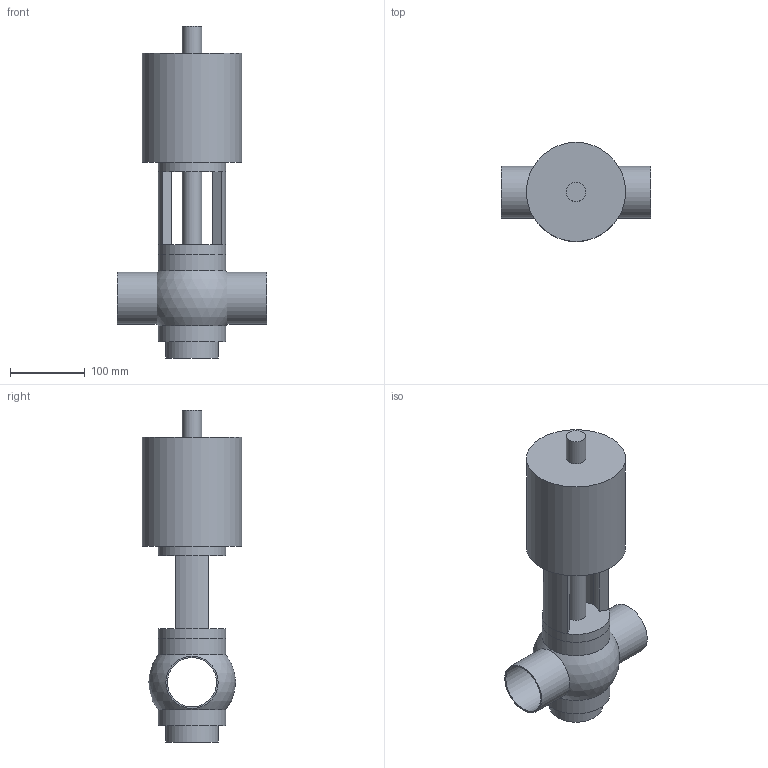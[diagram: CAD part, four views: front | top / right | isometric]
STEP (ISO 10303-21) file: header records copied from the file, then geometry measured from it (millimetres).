
FILE_DESCRIPTION(('FreeCAD Model'),'2;1');
FILE_NAME('/home/martin/Documents/proyect/valves/stp/valve_T_DN-65.step' ,'2018-01-12T21:55:58',('Author'),(''), 'Open CASCADE STEP processor 6.8','FreeCAD','Unknown');
FILE_SCHEMA(('AUTOMOTIVE_DESIGN_CC2 { 1 2 10303 214 -1 1 5 4 }'));
Length unit declared in the file: millimetre
Products named in the file (3): ASSEMBLY; valve_T_DN-65-body; valve_T_DN-65-head
Assembly tree (2 placements, depth 2):
  ASSEMBLY
    valve_T_DN-65-body
    valve_T_DN-65-head
Bounding box: 200 x 133 x 445 mm (x, y, z)
Volume: 2781807.2 mm3; surface area: 261357.2 mm2
Topology: 2 solids, 2 shells, 36 faces, 80 edges, 50 vertices
Faces by surface type: cylinder 18, plane 16, sphere 2
Full cylindrical faces by diameter (mm): 26 x2, 66 x3, 70 x3, 91 x4, 133 x1
Entity records: 2433 total; most frequent: CARTESIAN_POINT 575, DIRECTION 350, ORIENTED_EDGE 158, PCURVE 158, DEFINITIONAL_REPRESENTATION 158, LINE 145, VECTOR 145, AXIS2_PLACEMENT_3D 88
